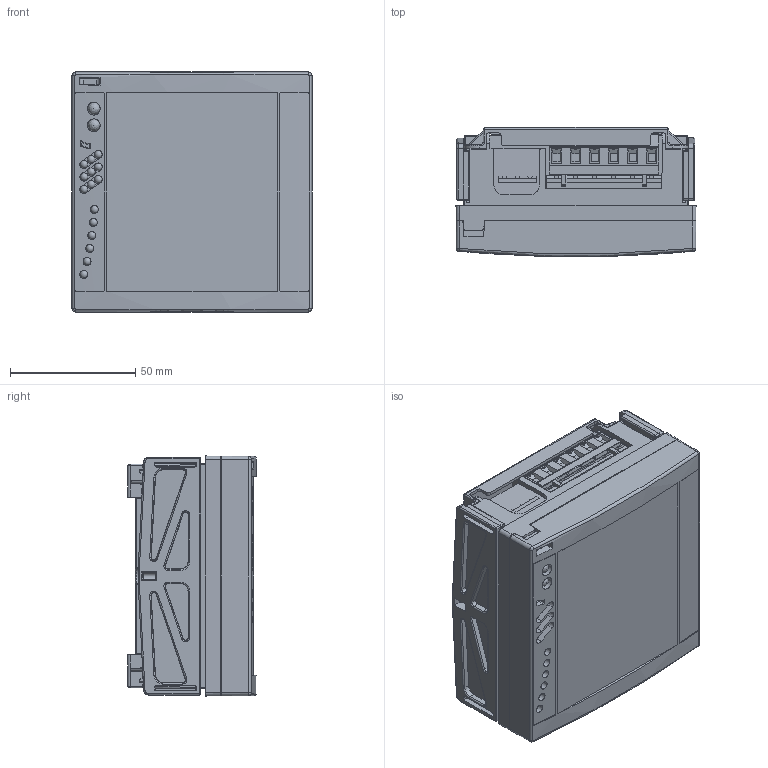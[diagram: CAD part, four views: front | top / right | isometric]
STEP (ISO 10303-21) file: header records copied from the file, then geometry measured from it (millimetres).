
FILE_DESCRIPTION((''),'2;1');
FILE_NAME('D:\Meccanica\WM30\Files meccanici\Assieme WM30_1.stp','2012-11-15T13:56:25',('dfregona'),(''),'Autodesk Inventor 2013','Autodesk Inventor 2013','');
FILE_SCHEMA(('AUTOMOTIVE_DESIGN { 1 0 10303 214 1 1 1 1 }'));
Length unit declared in the file: millimetre
Products named in the file (41): Assieme WM30_1; MEC422 - Guscio posteriore rev2; STUDIO_WM30-None_2; STUDIO_WM30-None_5; STUDIO_WM30-None_7; STUDIO_WM30-None_8; STUDIO_WM30-None_9; MEC423 - Guscio frontale rev2; MEC424 - Vetro frontale rev1; STUDIO_WM30-None_12; MEC429 - Tappo chiuso rev1; MEC428 - Sigillo morsetti rev1; STUDIO_WM30-None_28; STUDIO_WM30-None_39; STUDIO_WM30-None_44; STUDIO_WM30-None_61; STUDIO_WM30-None_66; STUDIO_WM30-None_67; STUDIO_WM30-None_82; STUDIO_WM30-None_83; STUDIO_WM30-None_85; STUDIO_WM30-None_86; STUDIO_WM30-None_100; STUDIO_WM30-None_107; STUDIO_WM30-None_109; MEC430 - Staffa fissaggio rev1; 3000287_TA_CT101250SL16; Trafo20x24x15; Condensatore_10,5x16,5; Conn_Maschio1x3_H35; DIODO SFH 203; DIODO SFH 203-SOLIDO_1; DIODO SFH 203-None_1; GMVSTBR_2_5-6-ST-7_62; mvstbr_2.5-3-st; TrimmerPT10V_7POS_CPT; led_verde_vert_3mm; GMSTBVA_2_5-6-G-7_62; mstbv_2.5-3-g-5; mstbv_2.5-3-g-5-None_1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
Assembly tree (56 placements, depth 3):
  Assieme WM30_1
    MEC422 - Guscio posteriore rev2
    STUDIO_WM30-None_2
    STUDIO_WM30-None_5
    STUDIO_WM30-None_7
    STUDIO_WM30-None_8
    STUDIO_WM30-None_9
    MEC423 - Guscio frontale rev2
    MEC424 - Vetro frontale rev1
    STUDIO_WM30-None_12
    MEC429 - Tappo chiuso rev1
    MEC428 - Sigillo morsetti rev1  x2
    STUDIO_WM30-None_28
    STUDIO_WM30-None_39
    STUDIO_WM30-None_44
    STUDIO_WM30-None_61
    STUDIO_WM30-None_66
    STUDIO_WM30-None_67
    STUDIO_WM30-None_82
    STUDIO_WM30-None_83
    STUDIO_WM30-None_85
    STUDIO_WM30-None_86
    STUDIO_WM30-None_100
    STUDIO_WM30-None_107
    STUDIO_WM30-None_109
    MEC430 - Staffa fissaggio rev1  x2
    3000287_TA_CT101250SL16  x3
    Trafo20x24x15
    Condensatore_10,5x16,5
    Conn_Maschio1x3_H35  x2
    DIODO SFH 203  x2
      DIODO SFH 203-SOLIDO_1
      DIODO SFH 203-None_1
    GMVSTBR_2_5-6-ST-7_62
    mvstbr_2.5-3-st  x2
    TrimmerPT10V_7POS_CPT
    led_verde_vert_3mm  x10
    GMSTBVA_2_5-6-G-7_62
    mstbv_2.5-3-g-5
      mstbv_2.5-3-g-5-None_1
      mstbv_2.5-3-g-5-SOLIDO_1
Bounding box: 96 x 51.53 x 96 mm (x, y, z)
Volume: 208606.6 mm3; surface area: 200527.5 mm2
Topology: 55 solids, 55 shells, 5197 faces, 12769 edges, 7970 vertices
Faces by surface type: plane 3754, cylinder 993, cone 161, bspline 137, sphere 86, torus 66
Full cylindrical faces by diameter (mm): 0.434 x6, 0.457 x4, 0.5 x32, 0.9 x9, 1 x18, 1.1 x12, 1.4 x36, 2 x4, 2.31 x1, 2.5 x4, 2.6 x3, 2.8 x26, 3 x23, 3.1 x1, 3.2 x22, 3.783 x15, 4 x15, 4.5 x1, 4.8 x4, 5.1 x2, 5.5 x1, 6 x8, 6.9 x3, 8 x1, 8.5 x2, 10.5 x2
Entity records: 138709 total; most frequent: CARTESIAN_POINT 29362, DIRECTION 22288, ORIENTED_EDGE 21868, EDGE_CURVE 10934, VECTOR 7884, LINE 7884, AXIS2_PLACEMENT_3D 7202, VERTEX_POINT 6958
